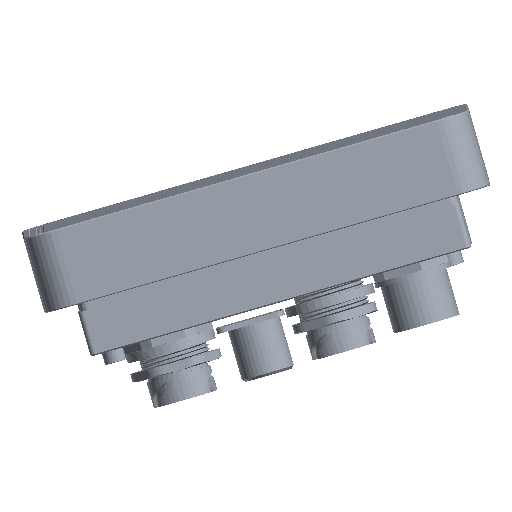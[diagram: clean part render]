
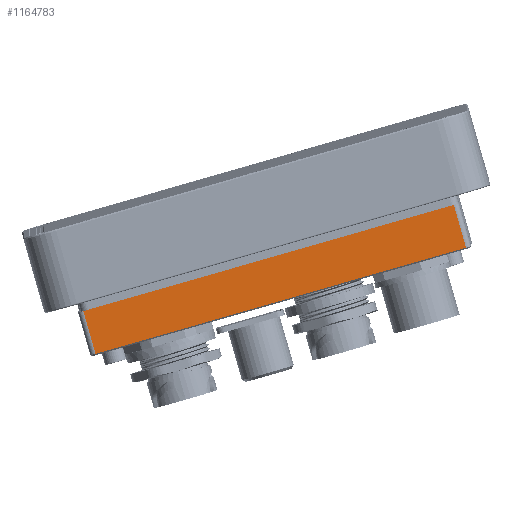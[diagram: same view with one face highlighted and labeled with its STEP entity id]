
A CAD part, front view. The second image highlights one B-rep face of the part: STEP entity #1164783.
In plain terms, the highlighted planar face has unit normal (0.004, -1, -0.017) as drawn and (0, 1, 0) by its records, which use the part's own axes.
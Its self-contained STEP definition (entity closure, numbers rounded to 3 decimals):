
#1164731=CARTESIAN_POINT('Vertex',(145.,39.5,0.)) ;
#1164734=CARTESIAN_POINT('Line Origine',(145.,39.5,8.5)) ;
#1164738=CARTESIAN_POINT('Vertex',(145.,39.5,16.5)) ;
#1164753=CARTESIAN_POINT('Axis2P3D Location',(147.,39.5,0.)) ;
#1164758=CARTESIAN_POINT('Line Origine',(73.5,39.5,0.)) ;
#1164762=CARTESIAN_POINT('Vertex',(2.,39.5,0.)) ;
#1164765=CARTESIAN_POINT('Line Origine',(2.,39.5,8.25)) ;
#1164769=CARTESIAN_POINT('Vertex',(2.,39.5,16.5)) ;
#1164772=CARTESIAN_POINT('Line Origine',(73.5,39.5,16.5)) ;
#1164735=DIRECTION('Vector Direction',(0.,0.,1.)) ;
#1164754=DIRECTION('Axis2P3D Direction',(0.,1.,-0.)) ;
#1164755=DIRECTION('Axis2P3D XDirection',(-1.,0.,0.)) ;
#1164759=DIRECTION('Vector Direction',(-1.,0.,0.)) ;
#1164766=DIRECTION('Vector Direction',(0.,0.,1.)) ;
#1164773=DIRECTION('Vector Direction',(-1.,0.,0.)) ;
#1164756=AXIS2_PLACEMENT_3D('Plane Axis2P3D',#1164753,#1164754,#1164755) ;
#1164778=ORIENTED_EDGE('',*,*,#1164740,.F.) ;
#1164779=ORIENTED_EDGE('',*,*,#1164764,.T.) ;
#1164780=ORIENTED_EDGE('',*,*,#1164771,.T.) ;
#1164781=ORIENTED_EDGE('',*,*,#1164776,.F.) ;
#1164736=VECTOR('Line Direction',#1164735,1.) ;
#1164760=VECTOR('Line Direction',#1164759,1.) ;
#1164767=VECTOR('Line Direction',#1164766,1.) ;
#1164774=VECTOR('Line Direction',#1164773,1.) ;
#1164783=ADVANCED_FACE('Hauptk\X2\00F6\X0\rper',(#1164782),#1164757,.T.) ;
#1164740=EDGE_CURVE('',#1164732,#1164739,#1164737,.T.) ;
#1164764=EDGE_CURVE('',#1164732,#1164763,#1164761,.T.) ;
#1164771=EDGE_CURVE('',#1164763,#1164770,#1164768,.T.) ;
#1164776=EDGE_CURVE('',#1164739,#1164770,#1164775,.T.) ;
#1164777=EDGE_LOOP('',(#1164778,#1164779,#1164780,#1164781)) ;
#1164782=FACE_OUTER_BOUND('',#1164777,.T.) ;
#1164737=LINE('Line',#1164734,#1164736) ;
#1164761=LINE('Line',#1164758,#1164760) ;
#1164768=LINE('Line',#1164765,#1164767) ;
#1164775=LINE('Line',#1164772,#1164774) ;
#1164757=PLANE('',#1164756) ;
#1164732=VERTEX_POINT('',#1164731) ;
#1164739=VERTEX_POINT('',#1164738) ;
#1164763=VERTEX_POINT('',#1164762) ;
#1164770=VERTEX_POINT('',#1164769) ;
